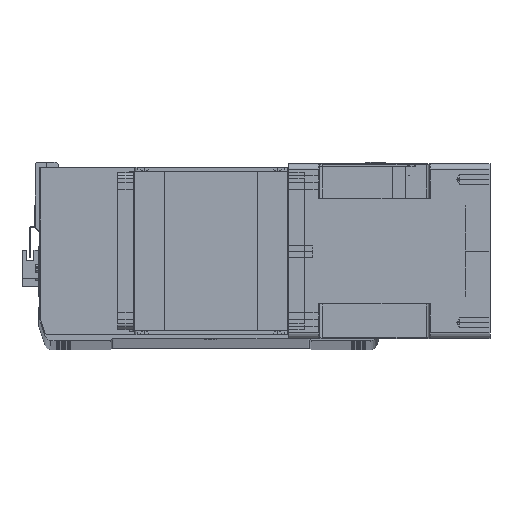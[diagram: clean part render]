
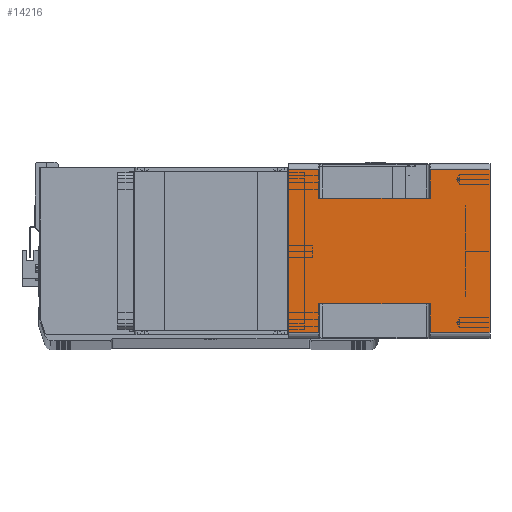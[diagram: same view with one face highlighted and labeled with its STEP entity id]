
A CAD part, top view. The second image highlights one B-rep face of the part: STEP entity #14216.
In plain terms, the highlighted planar face has unit normal (0, 0, 1) as drawn and (1, 0, 0) by its records, which use the part's own axes.
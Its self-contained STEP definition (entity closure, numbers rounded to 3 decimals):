
#32 = DIRECTION ( 'NONE',  ( 0., 0., 1. ) ) ;
#404 = DIRECTION ( 'NONE',  ( 0., 1., 0. ) ) ;
#911 = DIRECTION ( 'NONE',  ( 0., 1., 0. ) ) ;
#1418 = LINE ( 'NONE', #38034, #26288 ) ;
#1519 = CARTESIAN_POINT ( 'NONE',  ( 71., 43., -164. ) ) ;
#2065 = DIRECTION ( 'NONE',  ( 0., 0., 1. ) ) ;
#2413 = ORIENTED_EDGE ( 'NONE', *, *, #21550, .F. ) ;
#2551 = DIRECTION ( 'NONE',  ( 0., 1., 0. ) ) ;
#2712 = VECTOR ( 'NONE', #20681, 1000. ) ;
#3756 = VERTEX_POINT ( 'NONE', #28015 ) ;
#4548 = ORIENTED_EDGE ( 'NONE', *, *, #35812, .T. ) ;
#4932 = EDGE_CURVE ( 'NONE', #29868, #14094, #7034, .T. ) ;
#5715 = LINE ( 'NONE', #18572, #11727 ) ;
#5745 = VERTEX_POINT ( 'NONE', #13313 ) ;
#6124 = VECTOR ( 'NONE', #2551, 1000. ) ;
#6188 = CARTESIAN_POINT ( 'NONE',  ( 71., 66., -164. ) ) ;
#6407 = VERTEX_POINT ( 'NONE', #8099 ) ;
#6942 = CARTESIAN_POINT ( 'NONE',  ( 71., -66., -115.5 ) ) ;
#7034 = LINE ( 'NONE', #34665, #6124 ) ;
#8099 = CARTESIAN_POINT ( 'NONE',  ( 71., -66., 0. ) ) ;
#9871 = EDGE_CURVE ( 'NONE', #36152, #5745, #25320, .T. ) ;
#10186 = CARTESIAN_POINT ( 'NONE',  ( 71., 66., -115.5 ) ) ;
#10728 = EDGE_CURVE ( 'NONE', #6407, #16037, #22458, .T. ) ;
#11397 = PLANE ( 'NONE',  #31083 ) ;
#11496 = EDGE_CURVE ( 'NONE', #15487, #14094, #30218, .T. ) ;
#11727 = VECTOR ( 'NONE', #911, 1000. ) ;
#12340 = ORIENTED_EDGE ( 'NONE', *, *, #28308, .F. ) ;
#12500 = CARTESIAN_POINT ( 'NONE',  ( 71., -66., -164. ) ) ;
#13288 = DIRECTION ( 'NONE',  ( 0., 0., 1. ) ) ;
#13313 = CARTESIAN_POINT ( 'NONE',  ( 71., 43., -115.5 ) ) ;
#13428 = CARTESIAN_POINT ( 'NONE',  ( 71., -43., -164. ) ) ;
#14094 = VERTEX_POINT ( 'NONE', #16384 ) ;
#14209 = EDGE_CURVE ( 'NONE', #20585, #36152, #1418, .T. ) ;
#14216 = ADVANCED_FACE ( 'NONE', ( #37713 ), #11397, .T. ) ;
#14605 = DIRECTION ( 'NONE',  ( 0., -1., 0. ) ) ;
#15234 = VERTEX_POINT ( 'NONE', #6942 ) ;
#15487 = VERTEX_POINT ( 'NONE', #34672 ) ;
#15984 = VECTOR ( 'NONE', #36282, 1000. ) ;
#15989 = VECTOR ( 'NONE', #14605, 1000. ) ;
#16037 = VERTEX_POINT ( 'NONE', #34641 ) ;
#16384 = CARTESIAN_POINT ( 'NONE',  ( 71., -43., -24.5 ) ) ;
#16518 = DIRECTION ( 'NONE',  ( 1., 0., 0. ) ) ;
#17438 = EDGE_CURVE ( 'NONE', #3756, #20585, #24950, .T. ) ;
#17699 = ORIENTED_EDGE ( 'NONE', *, *, #29948, .F. ) ;
#18572 = CARTESIAN_POINT ( 'NONE',  ( 71., -66., -24.5 ) ) ;
#19432 = DIRECTION ( 'NONE',  ( 0., 0., -1. ) ) ;
#20585 = VERTEX_POINT ( 'NONE', #21863 ) ;
#20681 = DIRECTION ( 'NONE',  ( 0., 1., 0. ) ) ;
#21550 = EDGE_CURVE ( 'NONE', #29868, #6407, #23592, .T. ) ;
#21858 = CARTESIAN_POINT ( 'NONE',  ( 71., -66., -164. ) ) ;
#21863 = CARTESIAN_POINT ( 'NONE',  ( 71., 66., -164. ) ) ;
#22458 = LINE ( 'NONE', #34788, #2712 ) ;
#22565 = VECTOR ( 'NONE', #32, 1000. ) ;
#22584 = CARTESIAN_POINT ( 'NONE',  ( 71., 43., -115.5 ) ) ;
#23321 = CARTESIAN_POINT ( 'NONE',  ( 71., -66., -164. ) ) ;
#23460 = ORIENTED_EDGE ( 'NONE', *, *, #34998, .T. ) ;
#23592 = LINE ( 'NONE', #21858, #30435 ) ;
#23807 = LINE ( 'NONE', #30802, #15984 ) ;
#23829 = VECTOR ( 'NONE', #2065, 1000. ) ;
#24950 = LINE ( 'NONE', #12500, #33677 ) ;
#25003 = ORIENTED_EDGE ( 'NONE', *, *, #4932, .T. ) ;
#25320 = LINE ( 'NONE', #22584, #25777 ) ;
#25355 = LINE ( 'NONE', #6188, #22565 ) ;
#25777 = VECTOR ( 'NONE', #34272, 1000. ) ;
#25903 = DIRECTION ( 'NONE',  ( 0., 0., 1. ) ) ;
#26288 = VECTOR ( 'NONE', #25903, 1000. ) ;
#26589 = ORIENTED_EDGE ( 'NONE', *, *, #11496, .F. ) ;
#27522 = CARTESIAN_POINT ( 'NONE',  ( 71., -66., -24.5 ) ) ;
#27807 = VERTEX_POINT ( 'NONE', #29142 ) ;
#28015 = CARTESIAN_POINT ( 'NONE',  ( 71., -66., -164. ) ) ;
#28308 = EDGE_CURVE ( 'NONE', #3756, #15234, #23807, .T. ) ;
#28622 = EDGE_CURVE ( 'NONE', #15487, #15234, #36646, .T. ) ;
#29142 = CARTESIAN_POINT ( 'NONE',  ( 71., 66., -24.5 ) ) ;
#29166 = LINE ( 'NONE', #1519, #35574 ) ;
#29241 = DIRECTION ( 'NONE',  ( 0., 1., 0. ) ) ;
#29652 = ORIENTED_EDGE ( 'NONE', *, *, #10728, .F. ) ;
#29868 = VERTEX_POINT ( 'NONE', #27522 ) ;
#29948 = EDGE_CURVE ( 'NONE', #30686, #5745, #29166, .T. ) ;
#30218 = LINE ( 'NONE', #13428, #23829 ) ;
#30435 = VECTOR ( 'NONE', #13288, 1000. ) ;
#30686 = VERTEX_POINT ( 'NONE', #35777 ) ;
#30802 = CARTESIAN_POINT ( 'NONE',  ( 71., -66., -164. ) ) ;
#31083 = AXIS2_PLACEMENT_3D ( 'NONE', #23321, #16518, #29241 ) ;
#32164 = ORIENTED_EDGE ( 'NONE', *, *, #9871, .T. ) ;
#32689 = CARTESIAN_POINT ( 'NONE',  ( 71., -66., -115.5 ) ) ;
#33438 = ORIENTED_EDGE ( 'NONE', *, *, #14209, .T. ) ;
#33677 = VECTOR ( 'NONE', #404, 1000. ) ;
#34272 = DIRECTION ( 'NONE',  ( 0., -1., 0. ) ) ;
#34641 = CARTESIAN_POINT ( 'NONE',  ( 71., 66., 0. ) ) ;
#34665 = CARTESIAN_POINT ( 'NONE',  ( 71., -43., -24.5 ) ) ;
#34672 = CARTESIAN_POINT ( 'NONE',  ( 71., -43., -115.5 ) ) ;
#34788 = CARTESIAN_POINT ( 'NONE',  ( 71., -66., 0. ) ) ;
#34998 = EDGE_CURVE ( 'NONE', #30686, #27807, #5715, .T. ) ;
#35574 = VECTOR ( 'NONE', #19432, 1000. ) ;
#35777 = CARTESIAN_POINT ( 'NONE',  ( 71., 43., -24.5 ) ) ;
#35812 = EDGE_CURVE ( 'NONE', #27807, #16037, #25355, .T. ) ;
#36152 = VERTEX_POINT ( 'NONE', #10186 ) ;
#36277 = ORIENTED_EDGE ( 'NONE', *, *, #17438, .T. ) ;
#36282 = DIRECTION ( 'NONE',  ( 0., 0., 1. ) ) ;
#36463 = ORIENTED_EDGE ( 'NONE', *, *, #28622, .T. ) ;
#36635 = EDGE_LOOP ( 'NONE', ( #26589, #36463, #12340, #36277, #33438, #32164, #17699, #23460, #4548, #29652, #2413, #25003 ) ) ;
#36646 = LINE ( 'NONE', #32689, #15989 ) ;
#37713 = FACE_OUTER_BOUND ( 'NONE', #36635, .T. ) ;
#38034 = CARTESIAN_POINT ( 'NONE',  ( 71., 66., -164. ) ) ;
